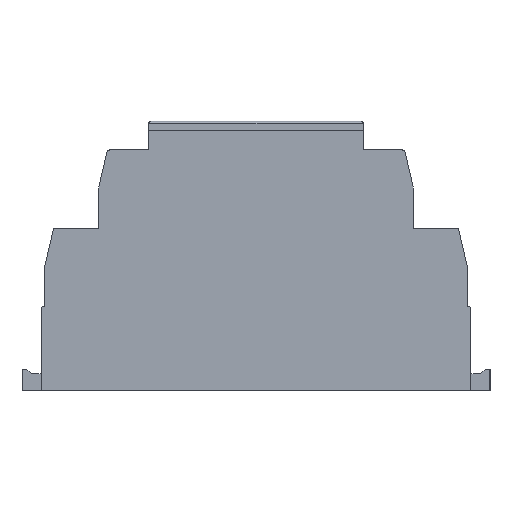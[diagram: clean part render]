
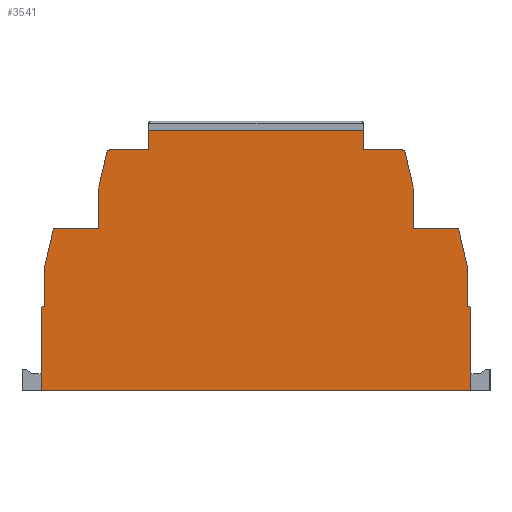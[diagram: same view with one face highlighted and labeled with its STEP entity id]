
A CAD part, left-side view. The second image highlights one B-rep face of the part: STEP entity #3541.
In plain terms, the highlighted planar face has unit normal (-1, 0, 0).
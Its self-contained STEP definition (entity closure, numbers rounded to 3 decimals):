
#220=CIRCLE('',#3887,0.5);
#222=CIRCLE('',#3890,0.5);
#223=CIRCLE('',#3891,0.5);
#224=CIRCLE('',#3892,0.5);
#225=CIRCLE('',#3893,0.5);
#226=CIRCLE('',#3894,0.5);
#946=ORIENTED_EDGE('',*,*,#1513,.T.);
#947=ORIENTED_EDGE('',*,*,#1514,.T.);
#948=ORIENTED_EDGE('',*,*,#1515,.T.);
#949=ORIENTED_EDGE('',*,*,#1516,.T.);
#950=ORIENTED_EDGE('',*,*,#1517,.T.);
#951=ORIENTED_EDGE('',*,*,#1518,.T.);
#952=ORIENTED_EDGE('',*,*,#1519,.T.);
#953=ORIENTED_EDGE('',*,*,#1520,.T.);
#954=ORIENTED_EDGE('',*,*,#1521,.T.);
#955=ORIENTED_EDGE('',*,*,#1522,.T.);
#956=ORIENTED_EDGE('',*,*,#1523,.F.);
#957=ORIENTED_EDGE('',*,*,#1510,.F.);
#958=ORIENTED_EDGE('',*,*,#1524,.F.);
#959=ORIENTED_EDGE('',*,*,#1525,.F.);
#960=ORIENTED_EDGE('',*,*,#1526,.F.);
#961=ORIENTED_EDGE('',*,*,#1527,.F.);
#962=ORIENTED_EDGE('',*,*,#1528,.F.);
#963=ORIENTED_EDGE('',*,*,#1529,.F.);
#964=ORIENTED_EDGE('',*,*,#1530,.F.);
#965=ORIENTED_EDGE('',*,*,#1531,.F.);
#966=ORIENTED_EDGE('',*,*,#1532,.F.);
#967=ORIENTED_EDGE('',*,*,#1533,.F.);
#968=ORIENTED_EDGE('',*,*,#1534,.T.);
#969=ORIENTED_EDGE('',*,*,#1535,.T.);
#970=ORIENTED_EDGE('',*,*,#1500,.T.);
#971=ORIENTED_EDGE('',*,*,#1536,.T.);
#1500=EDGE_CURVE('',#1863,#1862,#2193,.T.);
#1510=EDGE_CURVE('',#1872,#1873,#220,.T.);
#1513=EDGE_CURVE('',#1875,#1876,#2202,.T.);
#1514=EDGE_CURVE('',#1876,#1877,#2203,.T.);
#1515=EDGE_CURVE('',#1877,#1878,#2204,.T.);
#1516=EDGE_CURVE('',#1878,#1879,#222,.T.);
#1517=EDGE_CURVE('',#1879,#1880,#2205,.T.);
#1518=EDGE_CURVE('',#1880,#1881,#2206,.T.);
#1519=EDGE_CURVE('',#1881,#1882,#2207,.T.);
#1520=EDGE_CURVE('',#1882,#1883,#223,.T.);
#1521=EDGE_CURVE('',#1883,#1884,#2208,.T.);
#1522=EDGE_CURVE('',#1884,#1885,#2209,.T.);
#1523=EDGE_CURVE('',#1873,#1885,#2210,.T.);
#1524=EDGE_CURVE('',#1886,#1872,#2211,.T.);
#1525=EDGE_CURVE('',#1887,#1886,#2212,.T.);
#1526=EDGE_CURVE('',#1888,#1887,#2213,.T.);
#1527=EDGE_CURVE('',#1889,#1888,#224,.T.);
#1528=EDGE_CURVE('',#1890,#1889,#2214,.T.);
#1529=EDGE_CURVE('',#1891,#1890,#2215,.T.);
#1530=EDGE_CURVE('',#1892,#1891,#2216,.T.);
#1531=EDGE_CURVE('',#1893,#1892,#225,.T.);
#1532=EDGE_CURVE('',#1894,#1893,#2217,.T.);
#1533=EDGE_CURVE('',#1895,#1894,#2218,.T.);
#1534=EDGE_CURVE('',#1895,#1896,#2219,.T.);
#1535=EDGE_CURVE('',#1896,#1863,#2220,.T.);
#1536=EDGE_CURVE('',#1862,#1875,#226,.T.);
#1862=VERTEX_POINT('',#5787);
#1863=VERTEX_POINT('',#5789);
#1872=VERTEX_POINT('',#5810);
#1873=VERTEX_POINT('',#5812);
#1875=VERTEX_POINT('',#5818);
#1876=VERTEX_POINT('',#5819);
#1877=VERTEX_POINT('',#5821);
#1878=VERTEX_POINT('',#5823);
#1879=VERTEX_POINT('',#5825);
#1880=VERTEX_POINT('',#5827);
#1881=VERTEX_POINT('',#5829);
#1882=VERTEX_POINT('',#5831);
#1883=VERTEX_POINT('',#5833);
#1884=VERTEX_POINT('',#5835);
#1885=VERTEX_POINT('',#5837);
#1886=VERTEX_POINT('',#5840);
#1887=VERTEX_POINT('',#5842);
#1888=VERTEX_POINT('',#5844);
#1889=VERTEX_POINT('',#5846);
#1890=VERTEX_POINT('',#5848);
#1891=VERTEX_POINT('',#5850);
#1892=VERTEX_POINT('',#5852);
#1893=VERTEX_POINT('',#5854);
#1894=VERTEX_POINT('',#5856);
#1895=VERTEX_POINT('',#5858);
#1896=VERTEX_POINT('',#5860);
#2193=LINE('',#5788,#2540);
#2202=LINE('',#5817,#2549);
#2203=LINE('',#5820,#2550);
#2204=LINE('',#5822,#2551);
#2205=LINE('',#5826,#2552);
#2206=LINE('',#5828,#2553);
#2207=LINE('',#5830,#2554);
#2208=LINE('',#5834,#2555);
#2209=LINE('',#5836,#2556);
#2210=LINE('',#5838,#2557);
#2211=LINE('',#5839,#2558);
#2212=LINE('',#5841,#2559);
#2213=LINE('',#5843,#2560);
#2214=LINE('',#5847,#2561);
#2215=LINE('',#5849,#2562);
#2216=LINE('',#5851,#2563);
#2217=LINE('',#5855,#2564);
#2218=LINE('',#5857,#2565);
#2219=LINE('',#5859,#2566);
#2220=LINE('',#5861,#2567);
#2540=VECTOR('',#4734,1000.);
#2549=VECTOR('',#4759,1000.);
#2550=VECTOR('',#4760,1000.);
#2551=VECTOR('',#4761,1000.);
#2552=VECTOR('',#4764,1000.);
#2553=VECTOR('',#4765,1000.);
#2554=VECTOR('',#4766,1000.);
#2555=VECTOR('',#4769,1000.);
#2556=VECTOR('',#4770,1000.);
#2557=VECTOR('',#4771,1000.);
#2558=VECTOR('',#4772,1000.);
#2559=VECTOR('',#4773,1000.);
#2560=VECTOR('',#4774,1000.);
#2561=VECTOR('',#4777,1000.);
#2562=VECTOR('',#4778,1000.);
#2563=VECTOR('',#4779,1000.);
#2564=VECTOR('',#4782,1000.);
#2565=VECTOR('',#4783,1000.);
#2566=VECTOR('',#4784,1000.);
#2567=VECTOR('',#4785,1000.);
#2887=EDGE_LOOP('',(#946,#947,#948,#949,#950,#951,#952,#953,#954,#955,#956,
#957,#958,#959,#960,#961,#962,#963,#964,#965,#966,#967,#968,#969,#970,#971));
#3190=FACE_BOUND('',#2887,.T.);
#3332=PLANE('',#3889);
#3541=ADVANCED_FACE('',(#3190),#3332,.F.);
#3887=AXIS2_PLACEMENT_3D('',#5811,#4752,#4753);
#3889=AXIS2_PLACEMENT_3D('',#5816,#4757,#4758);
#3890=AXIS2_PLACEMENT_3D('',#5824,#4762,#4763);
#3891=AXIS2_PLACEMENT_3D('',#5832,#4767,#4768);
#3892=AXIS2_PLACEMENT_3D('',#5845,#4775,#4776);
#3893=AXIS2_PLACEMENT_3D('',#5853,#4780,#4781);
#3894=AXIS2_PLACEMENT_3D('',#5862,#4786,#4787);
#4734=DIRECTION('',(0.,1.,0.));
#4752=DIRECTION('',(1.,0.,0.));
#4753=DIRECTION('',(0.,0.,-1.));
#4757=DIRECTION('',(1.,0.,0.));
#4758=DIRECTION('',(0.,-0.862,0.507));
#4759=DIRECTION('',(0.,0.227,-0.974));
#4760=DIRECTION('',(0.,0.,-1.));
#4761=DIRECTION('',(0.,1.,0.));
#4762=DIRECTION('',(-1.,0.,0.));
#4763=DIRECTION('',(0.,0.,-1.));
#4764=DIRECTION('',(0.,0.227,-0.974));
#4765=DIRECTION('',(0.,0.,-1.));
#4766=DIRECTION('',(0.,1.,0.));
#4767=DIRECTION('',(-1.,0.,0.));
#4768=DIRECTION('',(0.,0.,-1.));
#4769=DIRECTION('',(0.,0.,-1.));
#4770=DIRECTION('',(0.,-1.,0.));
#4771=DIRECTION('',(0.,0.,-1.));
#4772=DIRECTION('',(0.,-1.,0.));
#4773=DIRECTION('',(0.,0.,-1.));
#4774=DIRECTION('',(0.,-0.227,-0.974));
#4775=DIRECTION('',(1.,0.,0.));
#4776=DIRECTION('',(0.,0.,-1.));
#4777=DIRECTION('',(0.,-1.,0.));
#4778=DIRECTION('',(0.,0.,-1.));
#4779=DIRECTION('',(0.,-0.227,-0.974));
#4780=DIRECTION('',(1.,0.,0.));
#4781=DIRECTION('',(0.,0.,-1.));
#4782=DIRECTION('',(0.,-1.,0.));
#4783=DIRECTION('',(0.,0.,-1.));
#4784=DIRECTION('',(0.,1.,0.));
#4785=DIRECTION('',(0.,0.,-1.));
#4786=DIRECTION('',(-1.,0.,0.));
#4787=DIRECTION('',(0.,0.,-1.));
#5787=CARTESIAN_POINT('',(11.788,-54.893,-97.6));
#5788=CARTESIAN_POINT('',(11.788,-54.893,-97.6));
#5789=CARTESIAN_POINT('',(11.788,-63.092,-97.6));
#5810=CARTESIAN_POINT('',(11.788,-130.092,-130.4));
#5811=CARTESIAN_POINT('',(11.788,-130.092,-130.9));
#5812=CARTESIAN_POINT('',(11.788,-130.592,-130.9));
#5816=CARTESIAN_POINT('',(11.788,-41.092,-130.9));
#5817=CARTESIAN_POINT('',(11.788,-52.692,-105.35));
#5818=CARTESIAN_POINT('',(11.788,-54.406,-97.987));
#5819=CARTESIAN_POINT('',(11.788,-52.692,-105.35));
#5820=CARTESIAN_POINT('',(11.788,-52.692,-114.));
#5821=CARTESIAN_POINT('',(11.788,-52.692,-114.));
#5822=CARTESIAN_POINT('',(11.788,-43.593,-114.));
#5823=CARTESIAN_POINT('',(11.788,-43.593,-114.));
#5824=CARTESIAN_POINT('',(11.788,-43.593,-114.5));
#5825=CARTESIAN_POINT('',(11.788,-43.106,-114.387));
#5826=CARTESIAN_POINT('',(11.788,-41.392,-121.75));
#5827=CARTESIAN_POINT('',(11.788,-41.392,-121.75));
#5828=CARTESIAN_POINT('',(11.788,-41.392,-130.4));
#5829=CARTESIAN_POINT('',(11.788,-41.392,-130.4));
#5830=CARTESIAN_POINT('',(11.788,-41.092,-130.4));
#5831=CARTESIAN_POINT('',(11.788,-41.092,-130.4));
#5832=CARTESIAN_POINT('',(11.788,-41.092,-130.9));
#5833=CARTESIAN_POINT('',(11.788,-40.592,-130.9));
#5834=CARTESIAN_POINT('',(11.788,-40.592,-148.));
#5835=CARTESIAN_POINT('',(11.788,-40.592,-148.));
#5836=CARTESIAN_POINT('',(11.788,-67.892,-148.));
#5837=CARTESIAN_POINT('',(11.788,-130.592,-148.));
#5838=CARTESIAN_POINT('',(11.788,-130.592,-148.));
#5839=CARTESIAN_POINT('',(11.788,-130.092,-130.4));
#5840=CARTESIAN_POINT('',(11.788,-129.792,-130.4));
#5841=CARTESIAN_POINT('',(11.788,-129.792,-130.4));
#5842=CARTESIAN_POINT('',(11.788,-129.792,-121.75));
#5843=CARTESIAN_POINT('',(11.788,-129.792,-121.75));
#5844=CARTESIAN_POINT('',(11.788,-128.077,-114.387));
#5845=CARTESIAN_POINT('',(11.788,-127.59,-114.5));
#5846=CARTESIAN_POINT('',(11.788,-127.59,-114.));
#5847=CARTESIAN_POINT('',(11.788,-127.59,-114.));
#5848=CARTESIAN_POINT('',(11.788,-118.492,-114.));
#5849=CARTESIAN_POINT('',(11.788,-118.492,-114.));
#5850=CARTESIAN_POINT('',(11.788,-118.492,-105.35));
#5851=CARTESIAN_POINT('',(11.788,-118.492,-105.35));
#5852=CARTESIAN_POINT('',(11.788,-116.777,-97.987));
#5853=CARTESIAN_POINT('',(11.788,-116.29,-98.1));
#5854=CARTESIAN_POINT('',(11.788,-116.29,-97.6));
#5855=CARTESIAN_POINT('',(11.788,-116.29,-97.6));
#5856=CARTESIAN_POINT('',(11.788,-108.092,-97.6));
#5857=CARTESIAN_POINT('',(11.788,-108.092,-97.6));
#5858=CARTESIAN_POINT('',(11.788,-108.092,-93.6));
#5859=CARTESIAN_POINT('',(11.788,-63.192,-93.6));
#5860=CARTESIAN_POINT('',(11.788,-63.092,-93.6));
#5861=CARTESIAN_POINT('',(11.788,-63.092,-97.6));
#5862=CARTESIAN_POINT('',(11.788,-54.893,-98.1));
